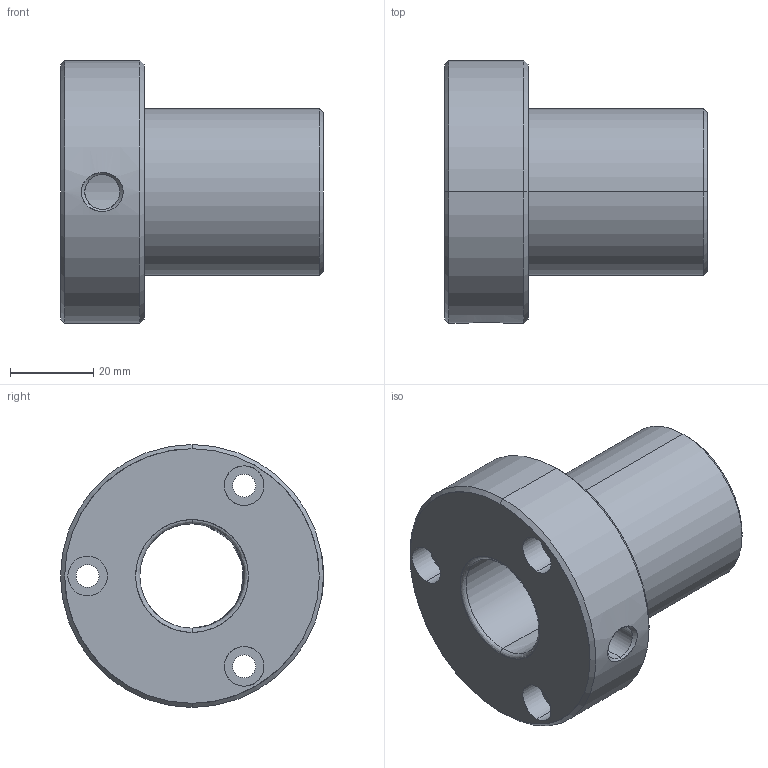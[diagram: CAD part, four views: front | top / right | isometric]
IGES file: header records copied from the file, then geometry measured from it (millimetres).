
Start section: START RECORD GO HERE.
Global section: file name: 346-25.igs; native system: DASSAULT SYSTEMES CATIA V5 R20 - www.3ds.com; preprocessor: CATIA Version 5 Release 20 ; author: Utente; organization: NB04-ASUS; date: 20201225.222803; units: millimetre
Bounding box: 63 x 63 x 63 mm (x, y, z)
Surface area: 20790.6 mm2 (no closed solid volume)
Topology: 0 solids, 0 shells, 39 faces, 318 edges, 318 vertices
Faces by surface type: revolution 32, plane 7
